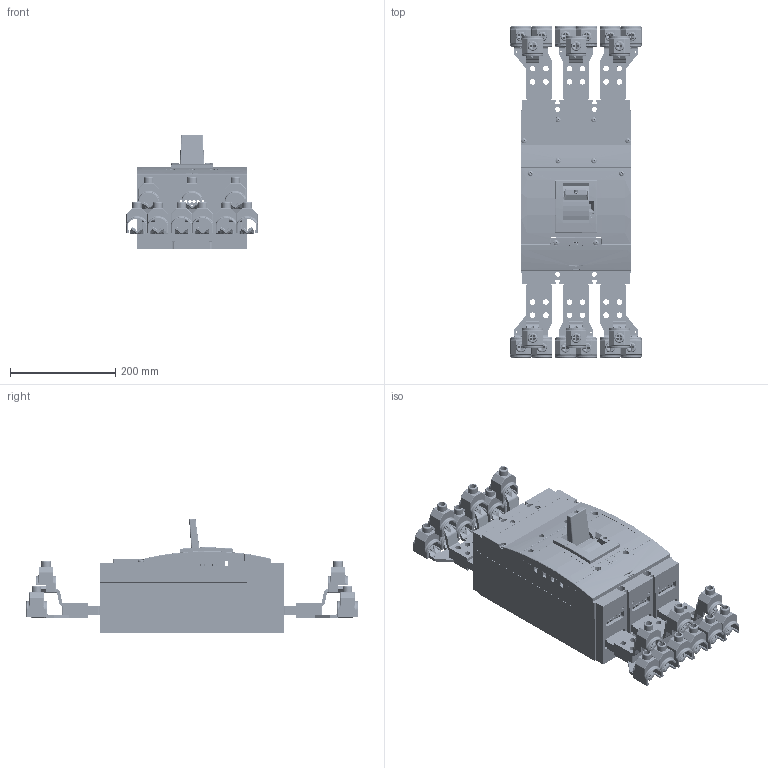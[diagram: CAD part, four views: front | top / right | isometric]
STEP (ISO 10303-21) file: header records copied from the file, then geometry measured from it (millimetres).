
FILE_DESCRIPTION (( 'STEP AP214' ), '1' );
FILE_NAME ('BL1600SE305__SE-BL__CS-BL-W010__CS-BL-W011.step', '2011-09-08T09:54:06', ( 'Radek Veselý' ), ( 'Siemens and Partners' ), 'SwSTEP 2.0', 'SolidWorks 2006303', '' );
FILE_SCHEMA (( 'AUTOMOTIVE_DESIGN' ));
Length unit declared in the file: millimetre
Products named in the file (1): BL1600SE305__SE-BL__CS-BL-W010__CS-BL-W011
Bounding box: 249.6 x 631.86 x 218.52 mm (x, y, z)
Volume: 4250555 mm3; surface area: 1786462.6 mm2
Topology: 75 solids, 75 shells, 11579 faces, 29660 edges, 18053 vertices
Faces by surface type: plane 7131, cylinder 3055, bspline 436, torus 427, sphere 302, cone 228
Entity records: 489859 total; most frequent: CARTESIAN_POINT 81878, ORIENTED_EDGE 58774, DIRECTION 57392, EDGE_CURVE 29387, VECTOR 20716, LINE 20716, AXIS2_PLACEMENT_3D 18338, VERTEX_POINT 18043
